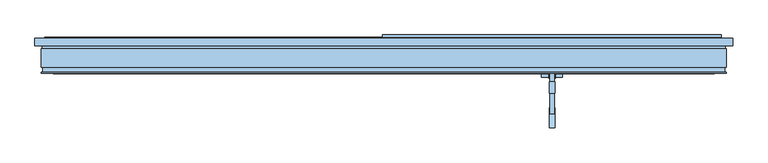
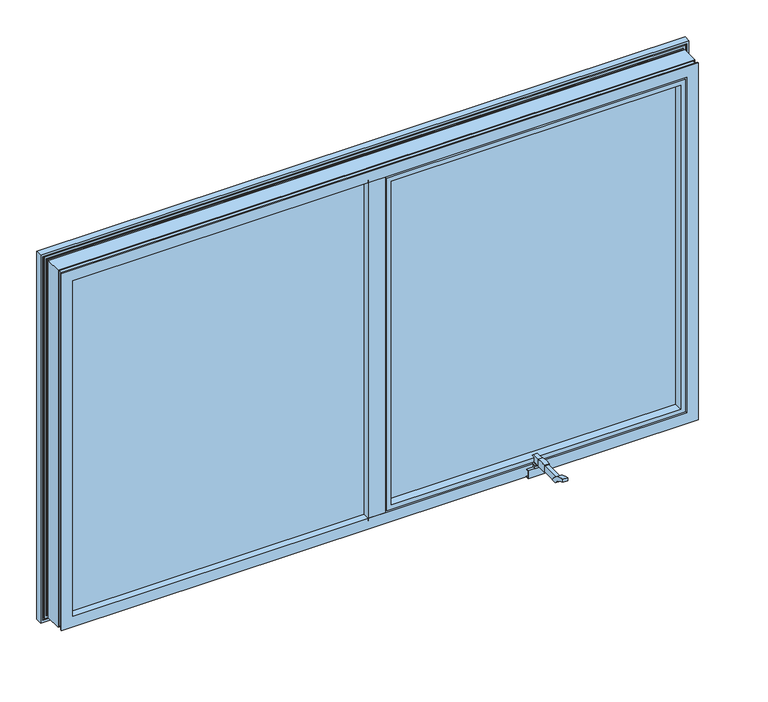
"""IFC4 building model written with IfcOpenShell, lengths in millimetres: window geometry, Comfort+_CKR-2_Metaglas : KozijnMerk."""

from ifc_helpers import new_model, si_unit, point, frame, frame_2d, origin, place, context, project, spatial, polyline, circle_curve, ellipse_curve, trimmed, segment, composite_curve, outline, extrude, faceted_brep, source, transform, mapped, element, save
from ifc_brep_helpers import plane_surface, cylinder_surface, extruded_surface, advanced_brep


def window_532ae94f(model_context):
    return source(origin(), model_context, "Body", "SolidModel", [
        extrude(outline(polyline([(-954.9925307, 22.0), (-26.9925307, 22.0), (-26.9925307, 16.0), (-954.9925307, 16.0), (-954.9925307, 22.0)])), frame((0.0, 0.0, 844.0), z_axis=(0.0, 0.0, 1.0), x_axis=(1.0, 0.0, 0.0)), (0.0, 0.0, 1.0), 1128.0),
        extrude(outline(polyline([(-954.9925307, 1.0), (-26.9925307, 1.0), (-26.9925307, -3.5), (-954.9925307, -3.5), (-954.9925307, 1.0)])), frame((0.0, 0.0, 844.0), z_axis=(0.0, 0.0, 1.0), x_axis=(1.0, 0.0, 0.0)), (0.0, 0.0, 1.0), 1128.0),
        extrude(outline(polyline([(-954.9925307, -18.5), (-26.9925307, -18.5), (-26.9925307, -24.5), (-954.9925307, -24.5), (-954.9925307, -18.5)])), frame((0.0, 0.0, 844.0), z_axis=(0.0, 0.0, 1.0), x_axis=(1.0, 0.0, 0.0)), (0.0, 0.0, 1.0), 1128.0),
        extrude(outline(polyline([(844.0, -954.9925307), (844.0, -26.9925307), (1972.0, -26.9925307), (1972.0, -954.9925307), (844.0, -954.9925307)]), holes=[polyline([(1960.0, -942.9925307), (1960.0, -38.9925307), (856.0, -38.9925307), (856.0, -942.9925307), (1960.0, -942.9925307)])]), frame((0.0, 1.0, 0.0), z_axis=(0.0, 1.0, 0.0), x_axis=(0.0, 0.0, 1.0)), (0.0, 0.0, 1.0), 15.0),
        extrude(outline(polyline([(844.0, -954.9925307), (844.0, -26.9925307), (1972.0, -26.9925307), (1972.0, -954.9925307), (844.0, -954.9925307)]), holes=[polyline([(1960.0, -942.9925307), (1960.0, -38.9925307), (856.0, -38.9925307), (856.0, -942.9925307), (1960.0, -942.9925307)])]), frame((0.0, -18.5, 0.0), z_axis=(0.0, 1.0, 0.0), x_axis=(0.0, 0.0, 1.0)), (0.0, 0.0, 1.0), 15.0),
        extrude(outline(polyline([(22.0, 25.3692425), (942.0, 25.3692425), (942.0, 19.3692425), (22.0, 19.3692425), (22.0, 25.3692425)])), frame((0.0, 0.0, 866.0), z_axis=(0.0, 0.0, 1.0), x_axis=(1.0, 0.0, 0.0)), (0.0, 0.0, 1.0), 1084.0),
        extrude(outline(polyline([(22.0, 4.3692425), (942.0, 4.3692425), (942.0, -0.1307575), (22.0, -0.1307575), (22.0, 4.3692425)])), frame((0.0, 0.0, 866.0), z_axis=(0.0, 0.0, 1.0), x_axis=(1.0, 0.0, 0.0)), (0.0, 0.0, 1.0), 1084.0),
        extrude(outline(polyline([(22.0, -15.1307575), (942.0, -15.1307575), (942.0, -21.1307575), (22.0, -21.1307575), (22.0, -15.1307575)])), frame((0.0, 0.0, 866.0), z_axis=(0.0, 0.0, 1.0), x_axis=(1.0, 0.0, 0.0)), (0.0, 0.0, 1.0), 1084.0),
        extrude(outline(polyline([(866.0, 22.0), (866.0, 942.0), (1950.0, 942.0), (1950.0, 22.0), (866.0, 22.0)]), holes=[polyline([(1938.0, 34.0), (1938.0, 930.0), (878.0, 930.0), (878.0, 34.0), (1938.0, 34.0)])]), frame((0.0, 4.3692425, 0.0), z_axis=(0.0, 1.0, 0.0), x_axis=(0.0, 0.0, 1.0)), (0.0, 0.0, 1.0), 15.0),
        extrude(outline(polyline([(866.0, 22.0), (866.0, 942.0), (1950.0, 942.0), (1950.0, 22.0), (866.0, 22.0)]), holes=[polyline([(1938.0, 34.0), (1938.0, 930.0), (878.0, 930.0), (878.0, 34.0), (1938.0, 34.0)])]), frame((0.0, -15.1307575, 0.0), z_axis=(0.0, 1.0, 0.0), x_axis=(0.0, 0.0, 1.0)), (0.0, 0.0, 1.0), 15.0),
        faceted_brep([(927.9999691, 27.3692482, 1935.9999691), (927.9999691, 59.3692425, 1935.9999691), (927.9999691, 59.3692425, 880.0000309), (927.9999691, 27.3692482, 880.0000309), (968.0, 59.3692425, 1976.0), (968.0, 59.3692425, 840.0), (-4.0, 59.3692425, 840.0), (-4.0, 59.3692425, 1976.0), (36.0000309, 59.3692425, 1935.9999691), (36.0000309, 59.3692425, 880.0000309), (36.0000309, 27.3692482, 880.0000309), (19.9000309, 27.3692482, 1952.0999691), (19.9000309, 27.3692482, 863.9000309), (944.0999691, 27.3692482, 863.9000309), (944.0999691, 27.3692482, 1952.0999691), (36.0000309, 27.3692482, 1935.9999691), (944.0999691, -24.0250837, 1952.0999691), (944.0999691, -24.0250837, 863.9000309), (19.9000309, -24.0250837, 863.9000309), (941.3734556, -25.0307326, 1949.3734556), (941.3734556, -25.0307326, 866.6265444), (22.6265444, -25.0307326, 866.6265444), (22.6265444, -25.0307326, 1949.3734556), (29.7398087, -25.0307326, 1942.2601913), (29.7398087, -25.0307326, 873.7398087), (934.2601913, -25.0307326, 873.7398087), (934.2601913, -25.0307326, 1942.2601913), (934.2601913, -28.2410565, 1942.2601913), (934.2601913, -28.2410565, 873.7398087), (29.7398087, -28.2410565, 873.7398087), (29.7398087, -28.2410565, 1942.2601913), (33.6102532, -28.2410565, 1938.3897468), (33.6102532, -28.2410565, 877.6102532), (930.3897468, -28.2410565, 877.6102532), (930.3897468, -28.2410565, 1938.3897468), (930.3897468, -25.0307326, 1938.3897468), (930.3897468, -25.0307326, 877.6102532), (33.6102532, -25.0307326, 877.6102532), (33.6102532, -25.0307326, 1938.3897468), (36.0000309, -25.0307326, 1935.9999691), (36.0000309, -25.0307326, 880.0000309), (927.9999691, -25.0307326, 880.0000309), (927.9999691, -25.0307326, 1935.9999691), (927.9999691, -51.0307326, 1935.9999691), (927.9999691, -51.0307326, 880.0000309), (36.0000309, -51.0307326, 880.0000309), (21.6000768, -51.0307326, 1950.3999232), (21.6000768, -51.0307326, 865.6000768), (942.3999232, -51.0307326, 865.6000768), (942.3999232, -51.0307326, 1950.3999232), (36.0000309, -51.0307326, 1935.9999691), (942.3999232, -36.5057326, 1950.3999232), (942.3999232, -36.5057326, 865.6000768), (21.6000768, -36.5057326, 865.6000768), (21.6000768, -36.5057326, 1950.3999232), (23.9500768, -36.5057326, 1948.0499232), (23.9500768, -36.5057326, 867.9500768), (940.0499232, -36.5057326, 867.9500768), (940.0499232, -36.5057326, 1948.0499232), (940.0499232, -33.5557326, 1948.0499232), (940.0499232, -33.5557326, 867.9500768), (23.9500768, -33.5557326, 867.9500768), (21.6000768, -33.5557326, 1950.3999232), (21.6000768, -33.5557326, 865.6000768), (942.3999232, -33.5557326, 865.6000768), (942.3999232, -33.5557326, 1950.3999232), (23.9500768, -33.5557326, 1948.0499232), (942.3999232, -28.5835216, 1950.3999232), (942.3999232, -28.5835216, 865.6000768), (21.6000768, -28.5835216, 865.6000768), (944.4527122, -26.5307326, 1952.4527122), (944.4527122, -26.5307326, 863.5472878), (19.5472878, -26.5307326, 863.5472878), (11.4986703, -26.5307326, 1960.5013297), (11.4986703, -26.5307326, 855.4986703), (952.5013297, -26.5307326, 855.4986703), (952.5013297, -26.5307326, 1960.5013297), (19.5472878, -26.5307326, 1952.4527122), (952.5013297, 32.4192482, 1960.5013297), (952.5013297, 32.4192482, 855.4986703), (11.4986703, 32.4192482, 855.4986703), (11.4986703, 32.4192482, 1960.5013297), (13.0, 32.4192482, 1959.0), (13.0, 32.4192482, 857.0), (951.0, 32.4192482, 857.0), (951.0, 32.4192482, 1959.0), (951.0, 29.9192482, 1959.0), (951.0, 29.9192482, 857.0), (13.0, 29.9192482, 857.0), (13.0, 29.9192482, 1959.0), (16.006208, 29.9192482, 1955.993792), (16.006208, 29.9192482, 860.006208), (947.993792, 29.9192482, 860.006208), (947.993792, 29.9192482, 1955.993792), (947.993792, 32.4192482, 1955.993792), (947.993792, 32.4192482, 860.006208), (16.006208, 32.4192482, 860.006208), (16.006208, 32.4192482, 1955.993792), (17.49995, 32.4192482, 1954.50005), (17.49995, 32.4192482, 861.49995), (946.50005, 32.4192482, 861.49995), (946.50005, 32.4192482, 1954.50005), (946.50005, 47.4183216, 1954.50005), (946.50005, 47.4183216, 861.49995), (17.49995, 47.4183216, 861.49995), (15.99998, 47.4183216, 1956.00002), (15.99998, 47.4183216, 859.99998), (948.00002, 47.4183216, 859.99998), (948.00002, 47.4183216, 1956.00002), (17.49995, 47.4183216, 1954.50005), (948.00002, 49.9189546, 1956.00002), (948.00002, 49.9189546, 859.99998), (15.99998, 49.9189546, 859.99998), (13.0, 49.9189546, 1959.0), (13.0, 49.9189546, 857.0), (951.0, 49.9189546, 857.0), (951.0, 49.9189546, 1959.0), (15.99998, 49.9189546, 1956.00002), (951.0, 47.4183216, 1959.0), (951.0, 47.4183216, 857.0), (13.0, 47.4183216, 857.0), (11.4986703, 47.4183216, 1960.5013297), (11.4986703, 47.4183216, 855.4986703), (952.5013297, 47.4183216, 855.4986703), (952.5013297, 47.4183216, 1960.5013297), (13.0, 47.4183216, 1959.0), (952.5013297, 53.3692482, 1960.5013297), (952.5013297, 53.3692482, 855.4986703), (11.4986703, 53.3692482, 855.4986703), (1.9568148, 53.3692482, 1970.0431852), (1.9568148, 53.3692482, 845.9568148), (962.0431852, 53.3692482, 845.9568148), (962.0431852, 53.3692482, 1970.0431852), (11.4986703, 53.3692482, 1960.5013297), (962.0431852, 56.7229344, 1970.0431852), (962.0431852, 56.7229344, 845.9568148), (1.9568148, 56.7229344, 845.9568148), (-1.9068148, 56.7229344, 1973.9068148), (-1.9068148, 56.7229344, 842.0931852), (965.9068148, 56.7229344, 842.0931852), (965.9068148, 56.7229344, 1973.9068148), (1.9568148, 56.7229344, 1970.0431852), (965.9068148, 53.3692482, 1973.9068148), (965.9068148, 53.3692482, 842.0931852), (-1.9068148, 53.3692482, 842.0931852), (-4.0, 53.3692482, 1976.0), (-4.0, 53.3692482, 840.0), (968.0, 53.3692482, 840.0), (968.0, 53.3692482, 1976.0), (-1.9068148, 53.3692482, 1973.9068148), (19.9000309, -24.0250837, 1952.0999691), (21.6000768, -28.5835216, 1950.3999232)], [[[0, 1, 2, 3]], [[4, 5, 6, 7], [8, 9, 2, 1]], [[3, 2, 9, 10]], [[11, 12, 13, 14], [0, 3, 10, 15]], [[16, 14, 13, 17]], [[17, 13, 12, 18]], [[19, 16, 17, 20]], [[20, 17, 18, 21]], [[19, 20, 21, 22], [23, 24, 25, 26]], [[27, 26, 25, 28]], [[28, 25, 24, 29]], [[27, 28, 29, 30], [31, 32, 33, 34]], [[35, 34, 33, 36]], [[36, 33, 32, 37]], [[35, 36, 37, 38], [39, 40, 41, 42]], [[43, 42, 41, 44]], [[44, 41, 40, 45]], [[46, 47, 48, 49], [43, 44, 45, 50]], [[51, 49, 48, 52]], [[52, 48, 47, 53]], [[51, 52, 53, 54], [55, 56, 57, 58]], [[59, 58, 57, 60]], [[60, 57, 56, 61]], [[62, 63, 64, 65], [59, 60, 61, 66]], [[67, 65, 64, 68]], [[68, 64, 63, 69]], [[70, 67, 68, 71]], [[71, 68, 69, 72]], [[73, 74, 75, 76], [70, 71, 72, 77]], [[78, 76, 75, 79]], [[79, 75, 74, 80]], [[78, 79, 80, 81], [82, 83, 84, 85]], [[86, 85, 84, 87]], [[87, 84, 83, 88]], [[86, 87, 88, 89], [90, 91, 92, 93]], [[94, 93, 92, 95]], [[95, 92, 91, 96]], [[94, 95, 96, 97], [98, 99, 100, 101]], [[102, 101, 100, 103]], [[103, 100, 99, 104]], [[105, 106, 107, 108], [102, 103, 104, 109]], [[110, 108, 107, 111]], [[111, 107, 106, 112]], [[113, 114, 115, 116], [110, 111, 112, 117]], [[118, 116, 115, 119]], [[119, 115, 114, 120]], [[121, 122, 123, 124], [118, 119, 120, 125]], [[126, 124, 123, 127]], [[127, 123, 122, 128]], [[129, 130, 131, 132], [126, 127, 128, 133]], [[134, 132, 131, 135]], [[135, 131, 130, 136]], [[137, 138, 139, 140], [134, 135, 136, 141]], [[142, 140, 139, 143]], [[143, 139, 138, 144]], [[145, 146, 147, 148], [142, 143, 144, 149]], [[4, 148, 147, 5]], [[5, 147, 146, 6]], [[10, 9, 8, 15]], [[18, 12, 11, 150]], [[21, 18, 150, 22]], [[29, 24, 23, 30]], [[37, 32, 31, 38]], [[45, 40, 39, 50]], [[53, 47, 46, 54]], [[61, 56, 55, 66]], [[69, 63, 62, 151]], [[72, 69, 151, 77]], [[80, 74, 73, 81]], [[88, 83, 82, 89]], [[96, 91, 90, 97]], [[104, 99, 98, 109]], [[112, 106, 105, 117]], [[120, 114, 113, 125]], [[128, 122, 121, 133]], [[136, 130, 129, 141]], [[144, 138, 137, 149]], [[6, 146, 145, 7]], [[15, 8, 1, 0]], [[150, 11, 14, 16]], [[22, 150, 16, 19]], [[30, 23, 26, 27]], [[38, 31, 34, 35]], [[50, 39, 42, 43]], [[54, 46, 49, 51]], [[66, 55, 58, 59]], [[151, 62, 65, 67]], [[77, 151, 67, 70]], [[81, 73, 76, 78]], [[89, 82, 85, 86]], [[97, 90, 93, 94]], [[109, 98, 101, 102]], [[117, 105, 108, 110]], [[125, 113, 116, 118]], [[133, 121, 124, 126]], [[141, 129, 132, 134]], [[149, 137, 140, 142]], [[7, 145, 148, 4]]]),
        extrude(outline(polyline([(473.0, -32.9540083), (492.0, -32.9540083), (492.0, -61.0307326), (473.0, -61.0307326), (473.0, -32.9540083)])), frame((0.0, 0.0, 851.0), z_axis=(0.0, 0.0, 1.0), x_axis=(1.0, 0.0, 0.0)), (0.0, 0.0, 1.0), 8.950006),
        extrude(outline(composite_curve([segment(polyline([(-73.9931957, 889.0887927), (-73.9931957, 866.0700029), (-107.0623221, 866.0700029), (-107.0623221, 889.0889399)]), True, "CONTINUOUS"), segment(trimmed(circle_curve(frame_2d((-90.5281082, 810.6500307)), 80.1626017), [point((-107.0623221, 889.0889399))], [point((-73.9931957, 889.0887927))], False, "CARTESIAN"), True, "CONTINUOUS")], self_intersect=False)), frame((475.0, 0.0, 0.0), z_axis=(1.0, 0.0, 0.0), x_axis=(0.0, 1.0, 0.0)), (0.0, 0.0, 1.0), 15.0),
        extrude(outline(polyline([(492.0, -36.2121266), (492.0, -64.0505423), (473.0, -64.0505423), (473.0, -36.2121266), (492.0, -36.2121266)])), frame((0.0, 0.0, 860.0153382), z_axis=(0.0, 0.0, 1.0), x_axis=(1.0, 0.0, 0.0)), (0.0, 0.0, 1.0), 6.0546648),
        extrude(outline(composite_curve([segment(polyline([(-32.991927, 873.5214623), (-32.991927, 866.0700029), (-73.9931957, 866.0700029), (-73.9931957, 886.6499927), (-45.9500617, 886.6499927)]), True, "CONTINUOUS"), segment(trimmed(circle_curve(frame_2d((-96.0281301, 824.2626489)), 79.99996), [point((-45.9500617, 886.6499927))], [point((-32.991927, 873.5214623))], False, "CARTESIAN"), True, "CONTINUOUS")], self_intersect=False)), frame((476.0, 0.0, 0.0), z_axis=(1.0, 0.0, 0.0), x_axis=(0.0, 1.0, 0.0)), (0.0, 0.0, 1.0), 13.0),
        extrude(outline(composite_curve([segment(polyline([(-107.0623221, 868.1503614), (-149.7165088, 868.1503614)]), True, "CONTINUOUS"), segment(trimmed(circle_curve(frame_2d((-214.6003368, 827.2823169)), 76.6818636), [point((-149.7165088, 868.1503614))], [point((-166.0659441, 886.6499927))], True, "CARTESIAN"), True, "CONTINUOUS"), segment(polyline([(-166.0659441, 886.6499927), (-107.0623221, 886.6499927), (-107.0623221, 868.1503614)]), True, "CONTINUOUS")], self_intersect=False)), frame((476.0, 0.0, 0.0), z_axis=(1.0, 0.0, 0.0), x_axis=(0.0, 1.0, 0.0)), (0.0, 0.0, 1.0), 13.0),
        advanced_brep(
        [(490.0, -165.4571619, 868.1503614), (490.0, -149.7165088, 868.1503614), (490.0, -206.6377889, 903.5496496), (490.0, -206.6377889, 894.663112), (475.0, -165.4571619, 868.1503614), (475.0, -206.6377889, 894.663112), (475.0, -206.6377889, 903.5496496), (475.0, -149.7165088, 868.1503614)],
        [
            (0, 1),
            (1, 2, circle_curve(frame((490.0, -214.6003368, 827.2823169), z_axis=(1.0, 0.0, 0.0), x_axis=(0.0, 1.0, 0.0)), 76.6818636)),
            (2, 3),
            (3, 0, ellipse_curve(frame((490.0, -227.2704895, 817.3697182), z_axis=(-1.0, 0.0, 0.0), x_axis=(0.0, 0.4613232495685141, -0.8872321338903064)), 80.0022115, 79.9970362)),
            (4, 5, ellipse_curve(frame((475.0, -227.2704895, 817.3697182), z_axis=(1.0, 0.0, 0.0), x_axis=(0.0, 0.4613232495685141, -0.8872321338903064)), 80.0022115, 79.9970362)),
            (5, 6),
            (6, 7, circle_curve(frame((475.0, -214.6003368, 827.2823169), z_axis=(-1.0, 0.0, 0.0), x_axis=(0.0, 1.0, 0.0)), 76.6818636)),
            (7, 4),
            (0, 4),
            (7, 1),
            (6, 2),
            (5, 3),
        ],
        [
            plane_surface(frame((490.0, -149.7165088, 868.1503614), z_axis=(1.0, 0.0, 0.0), x_axis=(0.0, 1.0, 0.0))),
            plane_surface(frame((475.0, -149.7165088, 868.1503614), z_axis=(-1.0, 0.0, 0.0), x_axis=(0.0, -1.0, 0.0))),
            plane_surface(frame((490.0, -165.4571619, 868.1503614), z_axis=(0.0, 0.0, -1.0), x_axis=(-1.0, 0.0, 0.0))),
            cylinder_surface(frame((475.0, -214.6003368, 827.2823169), z_axis=(1.0, 0.0, 0.0), x_axis=(0.0, 1.0, 0.0)), 76.6818636),
            plane_surface(frame((490.0, -206.6377889, 903.5496496), z_axis=(0.0, -1.0, 0.0), x_axis=(-1.0, 0.0, 0.0))),
            extruded_surface(trimmed(ellipse_curve(frame((460.0, -227.2704895, 817.3697182), z_axis=(-1.0, 0.0, 0.0), x_axis=(0.0, 0.4613232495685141, -0.8872321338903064)), 80.0022115, 79.9970362), [point((460.0, -206.6377889, 894.663112))], [point((460.0, -165.4571619, 868.1503614))], True, "CARTESIAN"), (15.0, 0.0, 0.0), 15.0),
        ],
        [
            (0, [[1, 2, 3, 4]]),
            (1, [[5, 6, 7, 8]]),
            (2, [[-1, 9, -8, 10]]),
            (3, [[-2, -10, -7, 11]]),
            (4, [[-3, -11, -6, 12]]),
            (5, [[-4, -12, -5, -9]]),
        ],
    ),
        faceted_brep([(-992.8725928, 32.3765351, 2000.8725928), (-992.8725928, 29.0, 2000.8725928), (-992.8725928, 29.0, 815.1274072), (-992.8725928, 32.3765351, 815.1274072), (-1000.0, 29.0, 808.0), (1000.0, 29.0, 808.0), (1000.0, 29.0, 2008.0), (-1000.0, 29.0, 2008.0), (992.8725928, 29.0, 2000.8725928), (992.8725928, 29.0, 815.1274072), (992.8725928, 32.3765351, 815.1274072), (992.8725928, 32.3765351, 2000.8725928), (-989.0089631, 32.3765351, 1997.0089631), (989.0089631, 32.3765351, 1997.0089631), (989.0089631, 32.3765351, 818.9910369), (-989.0089631, 32.3765351, 818.9910369), (-989.0089631, 29.0, 1997.0089631), (-989.0089631, 29.0, 818.9910369), (989.0089631, 29.0, 818.9910369), (989.0089631, 29.0, 1997.0089631), (-981.9850614, 29.0, 1989.9850614), (981.9850614, 29.0, 1989.9850614), (981.9850614, 29.0, 826.0149386), (-981.9850614, 29.0, 826.0149386), (-981.9850614, 27.9608904, 1989.9850614), (-981.9850614, 27.9608904, 826.0149386), (981.9850614, 27.9608904, 826.0149386), (981.9850614, 27.9608904, 1989.9850614), (-978.7447337, 27.9608904, 1986.7447337), (978.7447337, 27.9608904, 1986.7447337), (978.7447337, 27.9608904, 829.2552663), (-978.7447337, 27.9608904, 829.2552663), (-978.7447337, 19.1940428, 1986.7447337), (-978.7447337, 19.1940428, 829.2552663), (978.7447337, 19.1940428, 829.2552663), (-981.9850614, 19.1940428, 1989.9850614), (981.9850614, 19.1940428, 1989.9850614), (981.9850614, 19.1940428, 826.0149386), (-981.9850614, 19.1940428, 826.0149386), (978.7447337, 19.1940428, 1986.7447337), (-981.9850614, -33.0, 1989.9850614), (-981.9850614, -33.0, 826.0149386), (981.9850614, -33.0, 826.0149386), (981.9850614, -33.0, 1989.9850614), (-980.4999232, -33.0, 1988.4999232), (980.4999232, -33.0, 1988.4999232), (980.4999232, -33.0, 827.5000768), (-980.4999232, -33.0, 827.5000768), (-980.4999232, -31.0, 1988.4999232), (-980.4999232, -31.0, 827.5000768), (980.4999232, -31.0, 827.5000768), (980.4999232, -31.0, 1988.4999232), (-977.4912716, -31.0, 1985.4912716), (977.4912716, -31.0, 1985.4912716), (977.4912716, -31.0, 830.5087284), (-977.4912716, -31.0, 830.5087284), (-977.4912716, -49.0, 1985.4912716), (-977.4912716, -49.0, 830.5087284), (977.4912716, -49.0, 830.5087284), (-980.4999232, -49.0, 1988.4999232), (980.4999232, -49.0, 1988.4999232), (980.4999232, -49.0, 827.5000768), (-980.4999232, -49.0, 827.5000768), (977.4912716, -49.0, 1985.4912716), (-980.4999232, -47.0, 1988.4999232), (-980.4999232, -47.0, 827.5000768), (980.4999232, -47.0, 827.5000768), (-981.9850614, -47.0, 1989.9850614), (981.9850614, -47.0, 1989.9850614), (981.9850614, -47.0, 826.0149386), (-981.9850614, -47.0, 826.0149386), (980.4999232, -47.0, 1988.4999232), (-981.9850614, -51.0307326, 1989.9850614), (-981.9850614, -51.0307326, 826.0149386), (981.9850614, -51.0307326, 826.0149386), (981.9850614, -51.0307326, 1989.9850614), (-946.9850614, -51.0307326, 1954.9850614), (946.9850614, -51.0307326, 1954.9850614), (946.9850614, -51.0307326, 861.0149386), (-946.9850614, -51.0307326, 861.0149386), (-946.9850614, -30.0, 1954.9850614), (-946.9850614, -30.0, 861.0149386), (946.9850614, -30.0, 861.0149386), (-954.1273304, -30.0, 1962.1273304), (954.1273304, -30.0, 1962.1273304), (954.1273304, -30.0, 853.8726696), (-954.1273304, -30.0, 853.8726696), (946.9850614, -30.0, 1954.9850614), (-954.1273304, -33.1902947, 1962.1273304), (-954.1273304, -33.1902947, 853.8726696), (954.1273304, -33.1902947, 853.8726696), (-957.9909601, -33.1902947, 1965.9909601), (957.9909601, -33.1902947, 1965.9909601), (957.9909601, -33.1902947, 850.0090399), (-957.9909601, -33.1902947, 850.0090399), (954.1273304, -33.1902947, 1962.1273304), (-957.9909601, -30.0, 1965.9909601), (-957.9909601, -30.0, 850.0090399), (957.9909601, -30.0, 850.0090399), (-965.0, -30.0, 1973.0), (965.0, -30.0, 1973.0), (965.0, -30.0, 843.0), (-965.0, -30.0, 843.0), (957.9909601, -30.0, 1965.9909601), (-965.0, -28.9608904, 1973.0), (-965.0, -28.9608904, 843.0), (965.0, -28.9608904, 843.0), (-968.2224333, -28.9608904, 1976.2224333), (968.2224333, -28.9608904, 1976.2224333), (968.2224333, -28.9608904, 839.7775667), (-968.2224333, -28.9608904, 839.7775667), (965.0, -28.9608904, 1973.0), (-968.2224333, -20.1940428, 1976.2224333), (-968.2224333, -20.1940428, 839.7775667), (968.2224333, -20.1940428, 839.7775667), (968.2224333, -20.1940428, 1976.2224333), (-965.0, -20.1940428, 1973.0), (965.0, -20.1940428, 1973.0), (965.0, -20.1940428, 843.0), (-965.0, -20.1940428, 843.0), (-965.0, 32.0, 1973.0), (-965.0, 32.0, 843.0), (965.0, 32.0, 843.0), (-966.502736, 32.0, 1974.502736), (966.502736, 32.0, 1974.502736), (966.502736, 32.0, 841.497264), (-966.502736, 32.0, 841.497264), (965.0, 32.0, 1973.0), (-966.502736, 30.0, 1974.502736), (-966.502736, 30.0, 841.497264), (966.502736, 30.0, 841.497264), (-969.5, 30.0, 1977.5), (969.5, 30.0, 1977.5), (969.5, 30.0, 838.5), (-969.5, 30.0, 838.5), (966.502736, 30.0, 1974.502736), (-969.5, 48.0, 1977.5), (-969.5, 48.0, 838.5), (969.5, 48.0, 838.5), (969.5, 48.0, 1977.5), (-966.5, 48.0, 1974.5), (966.5, 48.0, 1974.5), (966.5, 48.0, 841.5), (-966.5, 48.0, 841.5), (-966.5, 46.0, 1974.5), (-966.5, 46.0, 841.5), (966.5, 46.0, 841.5), (966.5, 46.0, 1974.5), (-965.0, 46.0, 1973.0), (965.0, 46.0, 1973.0), (965.0, 46.0, 843.0), (-965.0, 46.0, 843.0), (-965.0, 50.0, 1973.0), (-965.0, 50.0, 843.0), (965.0, 50.0, 843.0), (-1000.0, 50.0, 2008.0), (1000.0, 50.0, 2008.0), (1000.0, 50.0, 808.0), (-1000.0, 50.0, 808.0), (965.0, 50.0, 1973.0)], [[[0, 1, 2, 3]], [[4, 5, 6, 7], [1, 8, 9, 2]], [[3, 2, 9, 10]], [[3, 10, 11, 0], [12, 13, 14, 15]], [[16, 12, 15, 17]], [[17, 15, 14, 18]], [[17, 18, 19, 16], [20, 21, 22, 23]], [[24, 20, 23, 25]], [[25, 23, 22, 26]], [[25, 26, 27, 24], [28, 29, 30, 31]], [[32, 28, 31, 33]], [[33, 31, 30, 34]], [[35, 36, 37, 38], [33, 34, 39, 32]], [[40, 35, 38, 41]], [[41, 38, 37, 42]], [[41, 42, 43, 40], [44, 45, 46, 47]], [[48, 44, 47, 49]], [[49, 47, 46, 50]], [[49, 50, 51, 48], [52, 53, 54, 55]], [[56, 52, 55, 57]], [[57, 55, 54, 58]], [[59, 60, 61, 62], [57, 58, 63, 56]], [[64, 59, 62, 65]], [[65, 62, 61, 66]], [[67, 68, 69, 70], [65, 66, 71, 64]], [[72, 67, 70, 73]], [[73, 70, 69, 74]], [[73, 74, 75, 72], [76, 77, 78, 79]], [[80, 76, 79, 81]], [[81, 79, 78, 82]], [[83, 84, 85, 86], [81, 82, 87, 80]], [[88, 83, 86, 89]], [[89, 86, 85, 90]], [[91, 92, 93, 94], [89, 90, 95, 88]], [[96, 91, 94, 97]], [[97, 94, 93, 98]], [[99, 100, 101, 102], [97, 98, 103, 96]], [[104, 99, 102, 105]], [[105, 102, 101, 106]], [[107, 108, 109, 110], [105, 106, 111, 104]], [[112, 107, 110, 113]], [[113, 110, 109, 114]], [[113, 114, 115, 112], [116, 117, 118, 119]], [[120, 116, 119, 121]], [[121, 119, 118, 122]], [[123, 124, 125, 126], [121, 122, 127, 120]], [[128, 123, 126, 129]], [[129, 126, 125, 130]], [[131, 132, 133, 134], [129, 130, 135, 128]], [[136, 131, 134, 137]], [[137, 134, 133, 138]], [[137, 138, 139, 136], [140, 141, 142, 143]], [[144, 140, 143, 145]], [[145, 143, 142, 146]], [[145, 146, 147, 144], [148, 149, 150, 151]], [[152, 148, 151, 153]], [[153, 151, 150, 154]], [[155, 156, 157, 158], [153, 154, 159, 152]], [[7, 155, 158, 4]], [[4, 158, 157, 5]], [[10, 9, 8, 11]], [[18, 14, 13, 19]], [[26, 22, 21, 27]], [[34, 30, 29, 39]], [[42, 37, 36, 43]], [[50, 46, 45, 51]], [[58, 54, 53, 63]], [[66, 61, 60, 71]], [[74, 69, 68, 75]], [[82, 78, 77, 87]], [[90, 85, 84, 95]], [[98, 93, 92, 103]], [[106, 101, 100, 111]], [[114, 109, 108, 115]], [[122, 118, 117, 127]], [[130, 125, 124, 135]], [[138, 133, 132, 139]], [[146, 142, 141, 147]], [[154, 150, 149, 159]], [[5, 157, 156, 6]], [[11, 8, 1, 0]], [[19, 13, 12, 16]], [[27, 21, 20, 24]], [[39, 29, 28, 32]], [[43, 36, 35, 40]], [[51, 45, 44, 48]], [[63, 53, 52, 56]], [[71, 60, 59, 64]], [[75, 68, 67, 72]], [[87, 77, 76, 80]], [[95, 84, 83, 88]], [[103, 92, 91, 96]], [[111, 100, 99, 104]], [[115, 108, 107, 112]], [[127, 117, 116, 120]], [[135, 124, 123, 128]], [[139, 132, 131, 136]], [[147, 141, 140, 144]], [[159, 149, 148, 152]], [[6, 156, 155, 7]]]),
        extrude(outline(polyline([(-36.0, -51.0), (-36.0, -30.0), (-28.8725928, -30.0), (-28.8725928, -33.3751885), (-25.0089631, -33.3751885), (-25.0089631, -30.0), (-18.0, -30.0), (-14.7291119, -28.9608904), (-14.7291119, -20.1940428), (-17.9999978, -20.1940428), (-17.9999978, -17.7500005), (-17.373404, -15.4793407), (-17.1951446, -12.4659389), (-17.1951446, 11.4143973), (-17.3787921, 12.9100865), (-18.0, 16.75), (-18.0, 30.9), (-28.5430941, 30.9), (-28.5430941, 37.7), (-32.3569059, 37.7), (-32.3569059, 30.9), (-36.0, 30.9), (-36.0, 52.0), (-11.8312291, 52.0), (-11.8312291, 50.0), (-1.0, 50.0), (-1.0, 46.0), (-2.5, 46.0), (-2.5, 48.0), (-5.5, 48.0), (-5.5, 30.0), (-2.5, 30.0), (-2.5, 32.0), (-1.0, 32.0), (-1.0, 16.75), (-1.6212079, 12.9100865), (-1.8048554, 11.4143973), (-1.8048554, -12.4659389), (-1.626596, -15.4793407), (-1.0000022, -17.7500005), (-1.0000022, -20.1940428), (-4.2708881, -20.1940428), (-4.2708881, -28.9608904), (-1.0, -30.0), (6.0089631, -30.0), (6.0089631, -33.3751885), (9.8725928, -33.3751885), (9.8725928, -30.0), (17.0, -30.0), (17.0, -51.0), (-36.0, -51.0)])), frame((0.0, 0.0, 853.0), z_axis=(0.0, 0.0, 1.0), x_axis=(1.0, 0.0, 0.0)), (0.0, 0.0, 1.0), 1110.0),
        faceted_brep([(-4.2708881, 30.9, 1962.4569059), (-4.2708881, 30.9, 1966.1), (-958.1, 30.9, 1966.1), (-958.1, 30.9, 849.9), (-4.2708881, 30.9, 849.9), (-4.2708881, 30.9, 853.5430941), (-954.4569059, 30.9, 853.5430941), (-954.4569059, 30.9, 1962.4569059), (-958.1, 45.0, 1966.1), (-958.1, 45.0, 849.9), (-4.2708881, 45.0, 849.9), (-4.2708881, 45.0, 843.0), (-4.2708881, 50.0, 843.0), (-4.2708881, 50.0, 836.8312291), (-4.2708881, 52.0, 836.8312291), (-4.2708881, 52.0, 861.0), (-4.2708881, 30.9, 861.0), (-4.2708881, 30.9, 857.3569059), (-4.2708881, 37.7, 857.3569059), (-4.2708881, 37.7, 853.5430941), (-954.4569059, 37.7, 853.5430941), (-954.4569059, 37.7, 1962.4569059), (-4.2708881, 37.7, 1958.6430941), (-4.2708881, 37.7, 1962.4569059), (-950.6430941, 37.7, 857.3569059), (-950.6430941, 37.7, 1958.6430941), (-950.6430941, 30.9, 857.3569059), (-950.6430941, 30.9, 1958.6430941), (-4.2708881, 30.9, 1955.0), (-4.2708881, 30.9, 1958.6430941), (-947.0, 30.9, 861.0), (-947.0, 30.9, 1955.0), (-947.0, 52.0, 861.0), (-947.0, 52.0, 1955.0), (-4.2708881, 52.0, 1979.1687709), (-4.2708881, 52.0, 1955.0), (-971.1687709, 52.0, 836.8312291), (-971.1687709, 52.0, 1979.1687709), (-971.1687709, 50.0, 836.8312291), (-971.1687709, 50.0, 1979.1687709), (-4.2708881, 50.0, 1973.0), (-4.2708881, 50.0, 1979.1687709), (-965.0, 50.0, 843.0), (-965.0, 50.0, 1973.0), (-965.0, 45.0, 843.0), (-965.0, 45.0, 1973.0), (-4.2708881, 45.0, 1966.1), (-4.2708881, 45.0, 1973.0)], [[[0, 1, 2, 3, 4, 5, 6, 7]], [[2, 8, 9, 3]], [[3, 9, 10, 4]], [[4, 10, 11, 12, 13, 14, 15, 16, 17, 18, 19, 5]], [[20, 6, 5, 19]], [[21, 7, 6, 20]], [[22, 23, 21, 20, 19, 18, 24, 25]], [[26, 24, 18, 17]], [[27, 25, 24, 26]], [[28, 29, 27, 26, 17, 16, 30, 31]], [[32, 30, 16, 15]], [[33, 31, 30, 32]], [[34, 35, 33, 32, 15, 14, 36, 37]], [[38, 36, 14, 13]], [[39, 37, 36, 38]], [[40, 41, 39, 38, 13, 12, 42, 43]], [[44, 42, 12, 11]], [[45, 43, 42, 44]], [[46, 47, 45, 44, 11, 10, 9, 8]], [[1, 0, 23, 22, 29, 28, 35, 34, 41, 40, 47, 46]], [[23, 0, 7, 21]], [[29, 22, 25, 27]], [[35, 28, 31, 33]], [[41, 34, 37, 39]], [[47, 40, 43, 45]], [[1, 46, 8, 2]]]),
        extrude(outline(polyline([(-61.0307326, 826.0), (-61.0307326, 851.0), (-21.0307326, 851.0), (-21.0307326, 826.0), (-61.0307326, 826.0)]), holes=[polyline([(-23.0307326, 849.0), (-59.0307326, 849.0), (-59.0307326, 828.0), (-23.0307326, 828.0), (-23.0307326, 849.0)])]), frame((452.0, 0.0, 0.0), z_axis=(1.0, 0.0, 0.0), x_axis=(0.0, 1.0, 0.0)), (0.0, 0.0, 1.0), 60.0),
    ])


if __name__ == "__main__":
    model = new_model("IFC4")
    model_context = context("Model", 3, world=origin())
    ifc_project = project(units=[si_unit("LENGTHUNIT", "METRE", prefix="MILLI")], contexts=[model_context])
    site = spatial("IfcSite", under=ifc_project)
    building = spatial("IfcBuilding", under=site)
    placement = place(None, origin())
    window_shape = window_532ae94f(model_context)
    element("IfcWindow", 1, ObjectType="Comfort+_CKR-2_Metaglas : KozijnMerk", at=placement, inside=building, context=model_context, shape_type="MappedRepresentation", body=[
        mapped(window_shape, transform((0.0, 0.0, 0.0), x_axis=(1.0, 0.0, 0.0), y_axis=(0.0, 1.0, 0.0), z_axis=(0.0, 0.0, 1.0))),
    ])
    save(model, "model.ifc")
